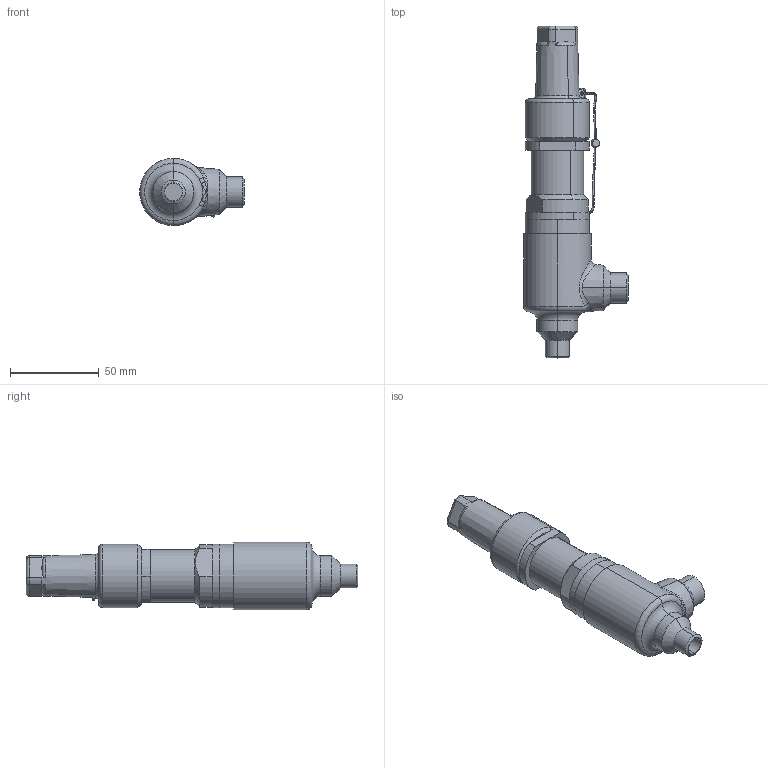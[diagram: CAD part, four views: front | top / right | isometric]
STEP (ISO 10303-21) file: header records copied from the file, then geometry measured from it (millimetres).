
FILE_DESCRIPTION (( 'STEP AP214' ), '1' );
FILE_NAME ('SVU 44800C07-DN 8-10_R1.STEP', '2010-09-07T13:47:51', ( 'Eckhard Grams' ), ( 'AWP Kälte Klima Armaturen GmbH' ), 'SwSTEP 2.0', 'SolidWorks 2002296', '' );
FILE_SCHEMA (( 'AUTOMOTIVE_DESIGN' ));
Length unit declared in the file: millimetre
Products named in the file (7): SVU 44800C07-DN 8-10_R1; Gehäuse42200E07-DN 8-10_PS40_R1_Standard; Deckel 44551-07-DN 8-15_PS40_Standard; Einstellschr 44551-07-8080002_DN 8-15_Standard; Kappe 36302-10_DN6-15 (M27x1)_Standard; Klemmring 44551-07-DN 8-15_Standard; Blombe-Schnur_Standard
Assembly tree (6 placements, depth 2):
  SVU 44800C07-DN 8-10_R1
    Klemmring 44551-07-DN 8-15_Standard
    Gehäuse42200E07-DN 8-10_PS40_R1_Standard
    Blombe-Schnur_Standard
    Kappe 36302-10_DN6-15 (M27x1)_Standard
    Einstellschr 44551-07-8080002_DN 8-15_Standard
    Deckel 44551-07-DN 8-15_PS40_Standard
Bounding box: 59 x 187 x 38 mm (x, y, z)
Volume: 110266.2 mm3; surface area: 46031.4 mm2
Topology: 6 solids, 6 shells, 236 faces, 523 edges, 313 vertices
Faces by surface type: cylinder 92, plane 52, cone 37, torus 32, bspline 23
Entity records: 20517 total; most frequent: CARTESIAN_POINT 14387, DIRECTION 1153, ORIENTED_EDGE 1046, EDGE_CURVE 523, AXIS2_PLACEMENT_3D 493, VERTEX_POINT 313, CIRCLE 271, EDGE_LOOP 264
